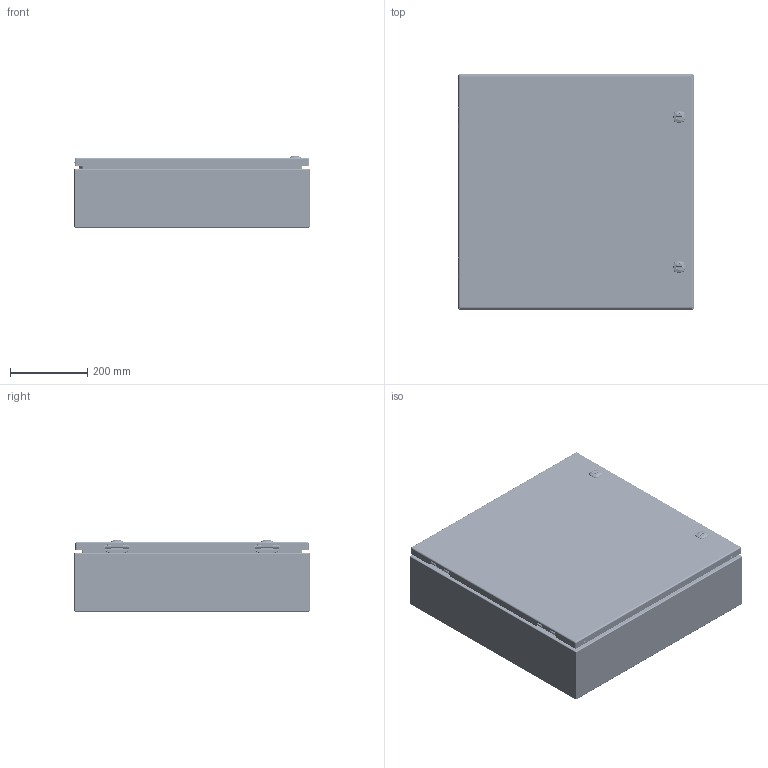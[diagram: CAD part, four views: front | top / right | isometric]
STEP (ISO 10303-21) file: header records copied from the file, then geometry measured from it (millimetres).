
FILE_DESCRIPTION(/* description */ ('5412ES 24" x 24" x 6" Assembly'),/* implementation_level */ '2;1');
FILE_NAME(/* name */ 'C:\Vault_Workspace\Inventor_Dwg\BoxCad\Result\5412ESB242406\e-mail\3D\5412ESB242406.stp',/* time_stamp */ '2022-03-15T13:29:04-04:00',/* author */ ('BoxCad'),/* organization */ (''),/* preprocessor_version */ 'ST-DEVELOPER v18.1',/* originating_system */ 'Autodesk Inventor 2020',/* authorisation */ '');
FILE_SCHEMA (('AUTOMOTIVE_DESIGN { 1 0 10303 214 3 1 1 }'));
Products named in the file (44): 5412ESB242406; 5412ESB242406B; 5412ESB242406B-P; STK-Q-16005; STUD_M6 x 16mm; STK-Q-07610; 881SP2424G; 881SP2424G-P; STK-Q-07310; 5412ESB242406C; 5412ESB242406C-P; 5412ESB242406G; STK-K-09800; STK-K-09800-2; STK-Q-33014; STK-Q-90398; STK-Q-40095; STK-Q-63410; STK-Q-16055; STK-Q-46020-24; STK-Q-07220-1; STK-Q-07220-2; STK-Q-07220-3; STK-Q-07220-4; STK-Q-07220-A; STK-Q-07220-B; STK-P-03820R; STK-S-00100; STK-A-880SCQ4-SL-1; STK-A-880SCQ4-SL-2; STK-Q-78110; STK-Q-78120; STK-Q-78145; STK-Q-03200; STK-Q-78125; STK-Q-78141; STK-Q-90390; STK-Q-78160; STK-Q-04050-07; STK-Q-04050-07-2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
Assembly tree (81 placements, depth 4):
  5412ESB242406
    5412ESB242406B
      5412ESB242406B-P
      STK-Q-16005  x4
      STK-P-03820R
      STUD_M6 x 16mm
    STK-Q-07610  x4
    881SP2424G
      881SP2424G-P
    STK-Q-07310  x4
    5412ESB242406C
      5412ESB242406C-P
      5412ESB242406G
      STK-K-09800
        STK-Q-33014
        STK-Q-90398
        STK-Q-40095  x2
        STK-Q-63410  x2
      STK-K-09800-2
        STK-Q-33014
        STK-Q-90398
        STK-Q-40095  x2
        STK-Q-63410  x2
      STK-Q-16055  x4
      STK-Q-46020-24  x2
      STK-Q-07220-1
        STK-Q-07220-A
        STK-Q-07220-B
      STK-Q-07220-2
        STK-Q-07220-A
        STK-Q-07220-B
      STK-Q-07220-3
        STK-Q-07220-A
        STK-Q-07220-B
      STK-Q-07220-4
        STK-Q-07220-A
        STK-Q-07220-B
      STK-P-03820R
      STK-S-00100
      STK-A-880SCQ4-SL-1
        STK-Q-78110
        STK-Q-78120
        STK-Q-78145
        STK-Q-03200
        STK-Q-78125
        STK-Q-78141
        STK-Q-90390
        STK-Q-78160
      STK-A-880SCQ4-SL-2
        STK-Q-78110
        STK-Q-78120
        STK-Q-78145
        STK-Q-03200
        STK-Q-78125
        STK-Q-78141
        STK-Q-90390
        STK-Q-78160
    STK-Q-04050-07
      STK-Q-04050-07-P
      STK-Q-04050-N
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Bounding box: 609.67 x 609.6 x 185.55 mm (x, y, z)
Volume: 2813652.1 mm3; surface area: 3429210.6 mm2
Topology: 64 solids, 64 shells, 9656 faces, 25916 edges, 16457 vertices
Faces by surface type: bspline 3404, plane 2761, cylinder 2500, torus 631, sphere 184, cone 176
Full cylindrical faces by diameter (mm): 0 x1, 0.75 x9, 0.762 x9, 1 x8, 1.1 x8, 3.2 x4, 4.191 x40, 4.5 x4, 4.521 x8, 4.75 x2, 4.85 x16, 4.95 x4, 5 x4, 5.1 x36, 5.156 x4, 5.6 x2, 5.9 x29, 6.015 x40, 6.65 x4, 6.8 x4, 6.85 x16, 7.3 x2, 7.366 x4, 7.9 x8, 8 x12, 8.382 x2, 9.5 x4, 9.6 x2, 9.906 x4, 10 x2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
Entity records: 154892 total; most frequent: CARTESIAN_POINT 63872, ORIENTED_EDGE 20830, DIRECTION 15141, EDGE_CURVE 10415, VERTEX_POINT 6595, AXIS2_PLACEMENT_3D 5552, EDGE_LOOP 4242, LINE 4037
